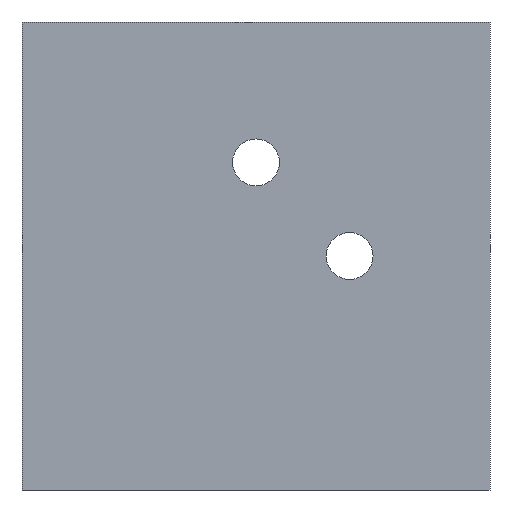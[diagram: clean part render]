
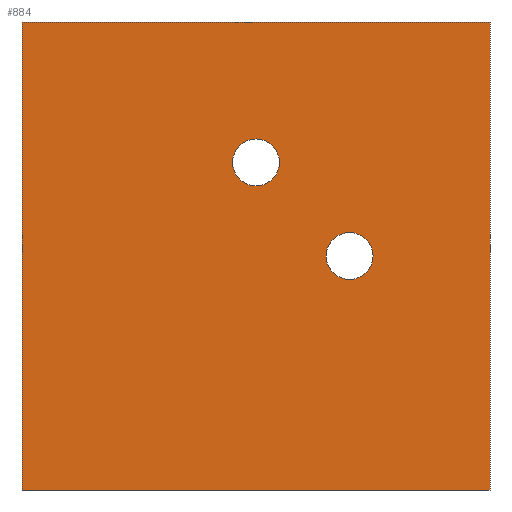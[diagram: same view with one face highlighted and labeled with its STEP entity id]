
A CAD part, front view. The second image highlights one B-rep face of the part: STEP entity #884.
In plain terms, the highlighted planar face has unit normal (0, -1, 0).
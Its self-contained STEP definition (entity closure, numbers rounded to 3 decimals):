
#10 = EDGE_CURVE ( 'NONE', #737, #702, #550, .T. ) ;
#18 = EDGE_CURVE ( 'NONE', #739, #726, #589, .T. ) ;
#40 = EDGE_CURVE ( 'NONE', #702, #737, #554, .T. ) ;
#50 = EDGE_CURVE ( 'NONE', #709, #719, #617, .T. ) ;
#61 = EDGE_CURVE ( 'NONE', #719, #697, #620, .T. ) ;
#66 = AXIS2_PLACEMENT_3D ( 'NONE', #305, #309, #306 ) ;
#72 = EDGE_CURVE ( 'NONE', #749, #697, #630, .T. ) ;
#89 = AXIS2_PLACEMENT_3D ( 'NONE', #169, #157, #171 ) ;
#90 = EDGE_CURVE ( 'NONE', #726, #739, #625, .T. ) ;
#93 = AXIS2_PLACEMENT_3D ( 'NONE', #196, #188, #214 ) ;
#99 = EDGE_CURVE ( 'NONE', #709, #749, #641, .T. ) ;
#102 = AXIS2_PLACEMENT_3D ( 'NONE', #262, #264, #247 ) ;
#116 = AXIS2_PLACEMENT_3D ( 'NONE', #402, #385, #413 ) ;
#157 = DIRECTION ( 'NONE',  ( 0., -1., 0. ) ) ;
#169 = CARTESIAN_POINT ( 'NONE',  ( 10., 0., 14. ) ) ;
#171 = DIRECTION ( 'NONE',  ( 1., 0., 0. ) ) ;
#188 = DIRECTION ( 'NONE',  ( 0., -1., 0. ) ) ;
#196 = CARTESIAN_POINT ( 'NONE',  ( 14., 0., 10. ) ) ;
#214 = DIRECTION ( 'NONE',  ( 1., 0., 0. ) ) ;
#244 = CARTESIAN_POINT ( 'NONE',  ( 0., 0., 20. ) ) ;
#247 = DIRECTION ( 'NONE',  ( 1., 0., 0. ) ) ;
#249 = DIRECTION ( 'NONE',  ( 0., 0., -1. ) ) ;
#255 = CARTESIAN_POINT ( 'NONE',  ( 20., 0., 0. ) ) ;
#262 = CARTESIAN_POINT ( 'NONE',  ( 10., 0., 14. ) ) ;
#264 = DIRECTION ( 'NONE',  ( 0., -1., 0. ) ) ;
#272 = CARTESIAN_POINT ( 'NONE',  ( 20., 0., 20. ) ) ;
#277 = DIRECTION ( 'NONE',  ( 1., 0., 0. ) ) ;
#283 = CARTESIAN_POINT ( 'NONE',  ( 20., 0., 20. ) ) ;
#285 = DIRECTION ( 'NONE',  ( 0., 0., -1. ) ) ;
#299 = DIRECTION ( 'NONE',  ( 1., 0., 0. ) ) ;
#305 = CARTESIAN_POINT ( 'NONE',  ( 14., 0., 10. ) ) ;
#306 = DIRECTION ( 'NONE',  ( 1., 0., 0. ) ) ;
#309 = DIRECTION ( 'NONE',  ( 0., -1., 0. ) ) ;
#311 = CARTESIAN_POINT ( 'NONE',  ( 15., 0., 10. ) ) ;
#313 = CARTESIAN_POINT ( 'NONE',  ( 0., 0., 0. ) ) ;
#314 = CARTESIAN_POINT ( 'NONE',  ( 20., 0., 20. ) ) ;
#330 = CARTESIAN_POINT ( 'NONE',  ( 9., 0., 14. ) ) ;
#337 = CARTESIAN_POINT ( 'NONE',  ( 13., 0., 10. ) ) ;
#345 = CARTESIAN_POINT ( 'NONE',  ( 11., 0., 14. ) ) ;
#346 = CARTESIAN_POINT ( 'NONE',  ( 20., 0., 0. ) ) ;
#360 = CARTESIAN_POINT ( 'NONE',  ( 0., 0., 20. ) ) ;
#384 = PLANE ( 'NONE',  #116 ) ;
#385 = DIRECTION ( 'NONE',  ( 0., 1., 0. ) ) ;
#402 = CARTESIAN_POINT ( 'NONE',  ( 20., 0., 20. ) ) ;
#413 = DIRECTION ( 'NONE',  ( -1., 0., 0. ) ) ;
#550 = CIRCLE ( 'NONE', #89, 1. ) ;
#554 = CIRCLE ( 'NONE', #102, 1. ) ;
#589 = CIRCLE ( 'NONE', #93, 1. ) ;
#617 = LINE ( 'NONE', #244, #618 ) ;
#618 = VECTOR ( 'NONE', #249, 1000. ) ;
#620 = LINE ( 'NONE', #255, #634 ) ;
#622 = VECTOR ( 'NONE', #285, 1000. ) ;
#625 = CIRCLE ( 'NONE', #66, 1. ) ;
#630 = LINE ( 'NONE', #283, #622 ) ;
#634 = VECTOR ( 'NONE', #299, 1000. ) ;
#641 = LINE ( 'NONE', #272, #642 ) ;
#642 = VECTOR ( 'NONE', #277, 1000. ) ;
#675 = EDGE_LOOP ( 'NONE', ( #764, #776 ) ) ;
#679 = EDGE_LOOP ( 'NONE', ( #780, #771 ) ) ;
#683 = EDGE_LOOP ( 'NONE', ( #791, #798, #786, #794 ) ) ;
#697 = VERTEX_POINT ( 'NONE', #346 ) ;
#702 = VERTEX_POINT ( 'NONE', #345 ) ;
#709 = VERTEX_POINT ( 'NONE', #360 ) ;
#719 = VERTEX_POINT ( 'NONE', #313 ) ;
#726 = VERTEX_POINT ( 'NONE', #311 ) ;
#737 = VERTEX_POINT ( 'NONE', #330 ) ;
#739 = VERTEX_POINT ( 'NONE', #337 ) ;
#749 = VERTEX_POINT ( 'NONE', #314 ) ;
#764 = ORIENTED_EDGE ( 'NONE', *, *, #90, .F. ) ;
#771 = ORIENTED_EDGE ( 'NONE', *, *, #10, .F. ) ;
#776 = ORIENTED_EDGE ( 'NONE', *, *, #18, .F. ) ;
#780 = ORIENTED_EDGE ( 'NONE', *, *, #40, .F. ) ;
#786 = ORIENTED_EDGE ( 'NONE', *, *, #99, .F. ) ;
#791 = ORIENTED_EDGE ( 'NONE', *, *, #61, .T. ) ;
#794 = ORIENTED_EDGE ( 'NONE', *, *, #50, .T. ) ;
#798 = ORIENTED_EDGE ( 'NONE', *, *, #72, .F. ) ;
#817 = FACE_BOUND ( 'NONE', #679, .T. ) ;
#821 = FACE_BOUND ( 'NONE', #675, .T. ) ;
#834 = FACE_OUTER_BOUND ( 'NONE', #683, .T. ) ;
#884 = ADVANCED_FACE ( 'NONE', ( #817, #821, #834 ), #384, .F. ) ;
